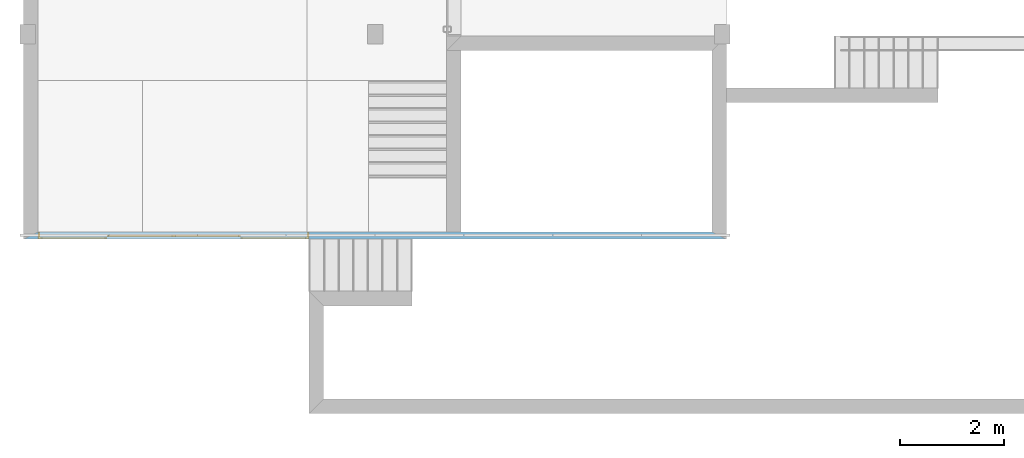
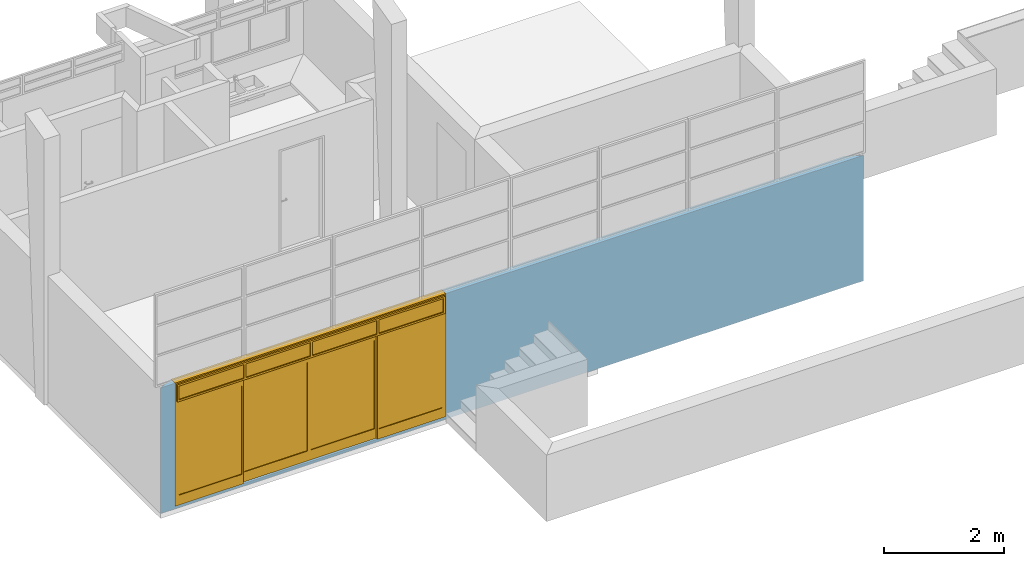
# One storey, part 10 of 16: 1 door, 9 openings, plus 1 element that does not belong to this part.
"""IFC2X3 building model written with IfcOpenShell, lengths in millimetres."""

from ifc_helpers import new_model, entity, si_unit, converted_unit, derived_unit, money_unit, direction, frame, origin_with_axes, origin_2d_with_axis, place, context, subcontext, project, spatial, polyline, rectangle, outline, extrude, open_shell, faceted_brep, surface_model, material, layer, layer_set, layer_usage, type_object, element, fill, save


model = new_model("IFC2X3")

# Units and contexts
model_context = context("Model", 3, precision=0.01, world=origin_with_axes(), true_north=direction((0.293984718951, 0.955810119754)))
body_context = subcontext(model_context, "Body", "Model", "MODEL_VIEW")
ifc_project = project(units=[si_unit("LENGTHUNIT", "METRE", prefix="MILLI"), si_unit("AREAUNIT", "SQUARE_METRE"), si_unit("VOLUMEUNIT", "CUBIC_METRE"), converted_unit("PLANEANGLEUNIT", "DEGREE", entity("IfcPlaneAngleMeasure", 0.0174532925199), si_unit("PLANEANGLEUNIT", "RADIAN"), dimensions=[0, 0, 0, 0, 0, 0, 0]), si_unit("SOLIDANGLEUNIT", "STERADIAN"), money_unit("USD"), converted_unit("TIMEUNIT", "Year", entity("IfcTimeMeasure", 31556926.0), si_unit("TIMEUNIT", "SECOND"), dimensions=[0, 0, 1, 0, 0, 0, 0]), si_unit("MASSUNIT", "GRAM", prefix="KILO"), si_unit("THERMODYNAMICTEMPERATUREUNIT", "DEGREE_CELSIUS"), si_unit("LUMINOUSINTENSITYUNIT", "LUMEN"), si_unit("ENERGYUNIT", "JOULE", prefix="MEGA"), derived_unit("THERMALCONDUCTANCEUNIT", [(si_unit("POWERUNIT", "WATT"), 1), (si_unit("LENGTHUNIT", "METRE"), -1), (si_unit("THERMODYNAMICTEMPERATUREUNIT", "KELVIN"), -1)]), derived_unit("SPECIFICHEATCAPACITYUNIT", [(si_unit("ENERGYUNIT", "JOULE"), 1), (si_unit("MASSUNIT", "GRAM", prefix="KILO"), -1), (si_unit("THERMODYNAMICTEMPERATUREUNIT", "KELVIN"), -1)]), derived_unit("MASSDENSITYUNIT", [(si_unit("MASSUNIT", "GRAM", prefix="KILO"), 1), (si_unit("VOLUMEUNIT", "CUBIC_METRE"), -1)])], contexts=[model_context])

# Site, building, storey
site_placement = place(None, origin_with_axes())
site = spatial("IfcSite", under=ifc_project, at=site_placement, Name="Local", CompositionType="ELEMENT")
building_placement = place(site_placement, origin_with_axes())
building = spatial("IfcBuilding", under=site, at=building_placement, Name="Construção", CompositionType="ELEMENT")
storey_placement = place(building_placement, origin_with_axes())
storey = spatial("IfcBuildingStorey", under=building, at=storey_placement, Name="Pavimento Térreo", CompositionType="ELEMENT", Elevation=0.0)

# Wall, openings, door
ifc_material_1 = material(Name="Reboco (1)")
ifc_layer_1 = layer(ifc_material_1, 20.0, ventilated="UNKNOWN")
ifc_material_2 = material(Name="Tijolo - Estrutural (1)")
ifc_layer_2 = layer(ifc_material_2, 100.0, ventilated="UNKNOWN")
ifc_layer_3 = layer(ifc_material_1, 20.0, ventilated="UNKNOWN")
ifc_layer_set = layer_set([ifc_layer_1, ifc_layer_2, ifc_layer_3], Name="Alvenaria Tijolo Maciço com Revestimento 14cm")
ifc_layer_usage = layer_usage(ifc_layer_set, "AXIS2", "NEGATIVE", 0.0)
wall_type = type_object("IfcWallType", Name="Alvenaria Tijolo Maciço com Revestimento 14cm 140", PredefinedType="NOTDEFINED")
wall_placement = place(storey_placement, frame((20579.6450727, 3350.63219788, 50.0), z_axis=(0.0, 0.0, 1.0), x_axis=(-1.0, 0.0, 0.0)))
wall = element("IfcWallStandardCase", 1, at=wall_placement, inside=storey, type_object=wall_type, material=ifc_layer_usage, Name="Parede", context=body_context, shape_type="SweptSolid", body=[
    extrude(outline(polyline([(280.0, -140.0), (13220.0, -140.0), (13500.0, 0.0), (0.0, 0.0), (280.0, -140.0)])), origin_with_axes(), (0.0, 0.0, 1.0), 2550.0),
])
opening_1_placement = place(wall_placement, frame((780.000000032, 0.0, 2550.0), z_axis=(0.0, 0.0, 1.0), x_axis=(1.0, 0.0, 0.0)))
element("IfcOpeningElement", 2, at=opening_1_placement, cuts=wall, Name="J02", context=body_context, shape_type="SweptSolid", body=[
    extrude(rectangle(XDim=1700.0, YDim=1880.0, at=origin_2d_with_axis()), frame((0.0, -50.0, 940.0), z_axis=(0.0, -1.0, 0.0), x_axis=(1.0, 0.0, 0.0)), (0.0, 0.0, 1.0), 230.0),
    extrude(rectangle(XDim=1700.0, YDim=1880.0, at=origin_2d_with_axis()), frame((0.0, -50.0, 940.0), z_axis=(0.0, 1.0, 0.0), x_axis=(1.0, 0.0, 0.0)), (0.0, 0.0, 1.0), 190.0),
])
opening_2_placement = place(wall_placement, frame((2485.71428575, 0.0, 2550.0), z_axis=(0.0, 0.0, 1.0), x_axis=(1.0, 0.0, 0.0)))
element("IfcOpeningElement", 3, at=opening_2_placement, cuts=wall, Name="J02", context=body_context, shape_type="SweptSolid", body=[
    extrude(rectangle(XDim=1700.0, YDim=1880.0, at=origin_2d_with_axis()), frame((0.0, -50.0, 940.0), z_axis=(0.0, -1.0, 0.0), x_axis=(1.0, 0.0, 0.0)), (0.0, 0.0, 1.0), 230.0),
    extrude(rectangle(XDim=1700.0, YDim=1880.0, at=origin_2d_with_axis()), frame((0.0, -50.0, 940.0), z_axis=(0.0, 1.0, 0.0), x_axis=(1.0, 0.0, 0.0)), (0.0, 0.0, 1.0), 190.0),
])
opening_3_placement = place(wall_placement, frame((4191.42857146, 0.0, 2550.0), z_axis=(0.0, 0.0, 1.0), x_axis=(1.0, 0.0, 0.0)))
element("IfcOpeningElement", 4, at=opening_3_placement, cuts=wall, Name="J02", context=body_context, shape_type="SweptSolid", body=[
    extrude(rectangle(XDim=1700.0, YDim=1880.0, at=origin_2d_with_axis()), frame((0.0, -50.0, 940.0), z_axis=(0.0, -1.0, 0.0), x_axis=(1.0, 0.0, 0.0)), (0.0, 0.0, 1.0), 230.0),
    extrude(rectangle(XDim=1700.0, YDim=1880.0, at=origin_2d_with_axis()), frame((0.0, -50.0, 940.0), z_axis=(0.0, 1.0, 0.0), x_axis=(1.0, 0.0, 0.0)), (0.0, 0.0, 1.0), 190.0),
])
opening_4_placement = place(wall_placement, frame((5897.14285717, 0.0, 2550.0), z_axis=(0.0, 0.0, 1.0), x_axis=(1.0, 0.0, 0.0)))
element("IfcOpeningElement", 5, at=opening_4_placement, cuts=wall, Name="J02", context=body_context, shape_type="SweptSolid", body=[
    extrude(rectangle(XDim=1700.0, YDim=1880.0, at=origin_2d_with_axis()), frame((0.0, -50.0, 940.0), z_axis=(0.0, -1.0, 0.0), x_axis=(1.0, 0.0, 0.0)), (0.0, 0.0, 1.0), 230.0),
    extrude(rectangle(XDim=1700.0, YDim=1880.0, at=origin_2d_with_axis()), frame((0.0, -50.0, 940.0), z_axis=(0.0, 1.0, 0.0), x_axis=(1.0, 0.0, 0.0)), (0.0, 0.0, 1.0), 190.0),
])
opening_5_placement = place(wall_placement, frame((7602.85714289, 0.0, 2550.0), z_axis=(0.0, 0.0, 1.0), x_axis=(1.0, 0.0, 0.0)))
element("IfcOpeningElement", 6, at=opening_5_placement, cuts=wall, Name="J02", context=body_context, shape_type="SweptSolid", body=[
    extrude(rectangle(XDim=1700.0, YDim=1880.0, at=origin_2d_with_axis()), frame((0.0, -50.0, 940.0), z_axis=(0.0, -1.0, 0.0), x_axis=(1.0, 0.0, 0.0)), (0.0, 0.0, 1.0), 230.0),
    extrude(rectangle(XDim=1700.0, YDim=1880.0, at=origin_2d_with_axis()), frame((0.0, -50.0, 940.0), z_axis=(0.0, 1.0, 0.0), x_axis=(1.0, 0.0, 0.0)), (0.0, 0.0, 1.0), 190.0),
])
opening_6_placement = place(wall_placement, frame((9308.5714286, 0.0, 2550.0), z_axis=(0.0, 0.0, 1.0), x_axis=(1.0, 0.0, 0.0)))
element("IfcOpeningElement", 7, at=opening_6_placement, cuts=wall, Name="J02", context=body_context, shape_type="SweptSolid", body=[
    extrude(rectangle(XDim=1700.0, YDim=1880.0, at=origin_2d_with_axis()), frame((0.0, -50.0, 940.0), z_axis=(0.0, -1.0, 0.0), x_axis=(1.0, 0.0, 0.0)), (0.0, 0.0, 1.0), 230.0),
    extrude(rectangle(XDim=1700.0, YDim=1880.0, at=origin_2d_with_axis()), frame((0.0, -50.0, 940.0), z_axis=(0.0, 1.0, 0.0), x_axis=(1.0, 0.0, 0.0)), (0.0, 0.0, 1.0), 190.0),
])
opening_7_placement = place(wall_placement, frame((11014.2857143, 0.0, 2550.0), z_axis=(0.0, 0.0, 1.0), x_axis=(1.0, 0.0, 0.0)))
element("IfcOpeningElement", 8, at=opening_7_placement, cuts=wall, Name="J02", context=body_context, shape_type="SweptSolid", body=[
    extrude(rectangle(XDim=1700.0, YDim=1880.0, at=origin_2d_with_axis()), frame((0.0, -50.0, 940.0), z_axis=(0.0, -1.0, 0.0), x_axis=(1.0, 0.0, 0.0)), (0.0, 0.0, 1.0), 230.0),
    extrude(rectangle(XDim=1700.0, YDim=1880.0, at=origin_2d_with_axis()), frame((0.0, -50.0, 940.0), z_axis=(0.0, 1.0, 0.0), x_axis=(1.0, 0.0, 0.0)), (0.0, 0.0, 1.0), 190.0),
])
opening_8_placement = place(wall_placement, frame((12720.0, 0.0, 2550.0), z_axis=(0.0, 0.0, 1.0), x_axis=(1.0, 0.0, 0.0)))
element("IfcOpeningElement", 9, at=opening_8_placement, cuts=wall, Name="J02", context=body_context, shape_type="SweptSolid", body=[
    extrude(rectangle(XDim=1700.0, YDim=1880.0, at=origin_2d_with_axis()), frame((0.0, -50.0, 940.0), z_axis=(0.0, -1.0, 0.0), x_axis=(1.0, 0.0, 0.0)), (0.0, 0.0, 1.0), 230.0),
    extrude(rectangle(XDim=1700.0, YDim=1880.0, at=origin_2d_with_axis()), frame((0.0, -50.0, 940.0), z_axis=(0.0, 1.0, 0.0), x_axis=(1.0, 0.0, 0.0)), (0.0, 0.0, 1.0), 190.0),
])
opening_9_placement = place(wall_placement, frame((10620.0, 0.0, 50.0), z_axis=(0.0, 0.0, 1.0), x_axis=(1.0, 0.0, 0.0)))
opening_9 = element("IfcOpeningElement", 10, at=opening_9_placement, cuts=wall, Name="P06", context=body_context, shape_type="SweptSolid", body=[
    extrude(rectangle(XDim=5200.0, YDim=2500.0, at=origin_2d_with_axis()), frame((0.0, -140.0, 1250.0), z_axis=(0.0, 1.0, 0.0), x_axis=(1.0, 0.0, 0.0)), (0.0, 0.0, 1.0), 420.0),
])
door_style = type_object("IfcDoorStyle", Name="Porta de Correr com Travessa 23", ConstructionType="NOTDEFINED", OperationType="USERDEFINED", ParameterTakesPrecedence=False, Sizeable=False)
door_placement = place(opening_9_placement, frame((-2600.0, 0.0, 0.0), z_axis=(0.0, 0.0, 1.0), x_axis=(1.0, 0.0, 0.0)))
door = element("IfcDoor", 11, at=door_placement, inside=storey, type_object=door_style, Name="P09", OverallHeight=2500.0, OverallWidth=5200.0, context=body_context, shape_type="SurfaceModel", body=[
    faceted_brep([(35.0, -18.0, 2135.0), (35.0, -18.0, 2465.0), (35.0, -140.0, 2465.0), (35.0, -140.0, 2135.0), (25.0, -18.0, 2465.0), (35.0, -18.0, 2125.0), (25.0, -18.0, 2125.0), (25.0, 0.0, 2465.0), (0.0, 0.0, 2465.0), (0.0, -140.0, 2465.0), (0.0, -140.0, 0.0), (35.0, -140.0, 0.0), (35.0, -140.0, 2100.0), (35.0, 0.0, 0.0), (35.0, 0.0, 2100.0), (35.0, 0.0, 2125.0), (25.0, 0.0, 2125.0), (0.0, 0.0, 0.0)], [[[0, 1, 2, 3]], [[4, 1, 0, 5, 6]], [[4, 7, 8, 9, 2, 1]], [[3, 2, 9, 10, 11, 12]], [[5, 0, 3, 12, 11, 13, 14, 15]], [[5, 15, 16, 6]], [[7, 4, 6, 16]], [[16, 15, 14, 13, 17, 8, 7]], [[17, 10, 9, 8]], [[13, 11, 10, 17]]]),
    faceted_brep([(5175.0, -18.0, 2465.0), (5165.0, -18.0, 2465.0), (5165.0, -140.0, 2465.0), (5200.0, -140.0, 2465.0), (5200.0, 0.0, 2465.0), (5175.0, 0.0, 2465.0), (5175.0, -18.0, 2125.0), (5165.0, -18.0, 2125.0), (5165.0, -18.0, 2135.0), (5165.0, -140.0, 2135.0), (5165.0, -140.0, 2100.0), (5165.0, -140.0, 0.0), (5200.0, -140.0, 0.0), (5200.0, 0.0, 0.0), (5175.0, 0.0, 2125.0), (5165.0, 0.0, 0.0), (5165.0, 0.0, 2100.0), (5165.0, 0.0, 2125.0)], [[[0, 1, 2, 3, 4, 5]], [[1, 0, 6, 7, 8]], [[1, 8, 9, 2]], [[9, 10, 11, 12, 3, 2]], [[4, 3, 12, 13]], [[14, 5, 4, 13, 15, 16, 17]], [[0, 5, 14, 6]], [[14, 17, 7, 6]], [[7, 17, 16, 15, 11, 10, 9, 8]], [[13, 12, 11, 15]]]),
    faceted_brep([(25.0, 0.0, 2475.0), (25.0, 0.0, 2465.0), (0.0, 0.0, 2465.0), (0.0, 0.0, 2500.0), (5200.0, 0.0, 2500.0), (5200.0, 0.0, 2465.0), (5175.0, 0.0, 2465.0), (5175.0, 0.0, 2475.0), (25.0, -18.0, 2475.0), (25.0, -18.0, 2465.0), (35.0, -18.0, 2465.0), (35.0, -140.0, 2465.0), (0.0, -140.0, 2465.0), (0.0, -140.0, 2500.0), (5200.0, -140.0, 2500.0), (5200.0, -140.0, 2465.0), (5175.0, -18.0, 2465.0), (5165.0, -140.0, 2465.0), (5165.0, -18.0, 2465.0), (5175.0, -18.0, 2475.0)], [[[0, 1, 2, 3, 4, 5, 6, 7]], [[1, 0, 8, 9]], [[9, 10, 11, 12, 2, 1]], [[2, 12, 13, 3]], [[3, 13, 14, 4]], [[4, 14, 15, 5]], [[16, 6, 5, 15, 17, 18]], [[7, 6, 16, 19]], [[0, 7, 19, 8]], [[16, 18, 10, 9, 8, 19]], [[10, 18, 17, 11]], [[17, 15, 14, 13, 12, 11]]]),
    faceted_brep([(5165.0, 0.0, 2125.0), (5165.0, -18.0, 2125.0), (5165.0, -18.0, 2135.0), (5165.0, -140.0, 2135.0), (5165.0, -140.0, 2100.0), (5165.0, 0.0, 2100.0), (35.0, 0.0, 2125.0), (35.0, -18.0, 2125.0), (35.0, -18.0, 2135.0), (35.0, -140.0, 2135.0), (35.0, -140.0, 2100.0), (35.0, 0.0, 2100.0)], [[[0, 1, 2, 3, 4, 5]], [[1, 0, 6, 7]], [[8, 2, 1, 7]], [[2, 8, 9, 3]], [[10, 4, 3, 9]], [[5, 4, 10, 11]], [[6, 0, 5, 11]], [[7, 6, 11, 10, 9, 8]]]),
    faceted_brep([(1317.5, 0.0, 200.0), (1317.5, -40.0, 200.0), (1282.5, -40.0, 200.0), (1282.5, 0.0, 200.0), (1317.5, 0.0, 2000.0), (1317.5, -40.0, 2000.0), (1282.5, -40.0, 2000.0), (1282.5, 0.0, 2000.0)], [[[0, 1, 2, 3]], [[4, 5, 1, 0]], [[1, 5, 6, 2]], [[3, 2, 6, 7]], [[0, 3, 7, 4]], [[7, 6, 5, 4]]]),
    faceted_brep([(35.0, 0.0, 200.0), (35.0, -40.0, 200.0), (35.0, -40.0, 2000.0), (35.0, 0.0, 2000.0), (70.0, 0.0, 200.0), (70.0, -40.0, 200.0), (70.0, -40.0, 2000.0), (70.0, 0.0, 2000.0)], [[[0, 1, 2, 3]], [[4, 5, 1, 0]], [[1, 5, 6, 2]], [[3, 2, 6, 7]], [[0, 3, 7, 4]], [[7, 6, 5, 4]]]),
    faceted_brep([(1317.5, 0.0, 0.0), (1317.5, -40.0, 0.0), (35.0, -40.0, 0.0), (35.0, 0.0, 0.0), (1317.5, 0.0, 200.0), (1317.5, -40.0, 200.0), (1282.5, -40.0, 200.0), (70.0, -40.0, 200.0), (35.0, -40.0, 200.0), (35.0, 0.0, 200.0), (70.0, 0.0, 200.0), (1282.5, 0.0, 200.0)], [[[0, 1, 2, 3]], [[4, 5, 1, 0]], [[1, 5, 6, 7, 8, 2]], [[3, 2, 8, 9]], [[0, 3, 9, 10, 11, 4]], [[11, 6, 5, 4]], [[10, 7, 6, 11]], [[9, 8, 7, 10]]]),
    faceted_brep([(1317.5, 0.0, 2100.0), (1317.5, -40.0, 2100.0), (1317.5, -40.0, 2000.0), (1317.5, 0.0, 2000.0), (35.0, 0.0, 2100.0), (35.0, -40.0, 2100.0), (35.0, -40.0, 2000.0), (70.0, -40.0, 2000.0), (1282.5, -40.0, 2000.0), (1282.5, 0.0, 2000.0), (70.0, 0.0, 2000.0), (35.0, 0.0, 2000.0)], [[[0, 1, 2, 3]], [[4, 5, 1, 0]], [[1, 5, 6, 7, 8, 2]], [[3, 2, 8, 9]], [[0, 3, 9, 10, 11, 4]], [[11, 6, 5, 4]], [[10, 7, 6, 11]], [[9, 8, 7, 10]]]),
    surface_model("IfcShellBasedSurfaceModel", [(1282.5, -14.0, 200.0), (70.0, -14.0, 200.0), (70.0, -14.0, 2000.0), (1282.5, -14.0, 2000.0)], [open_shell([[[0, 1, 2, 3]]])]),
    surface_model("IfcShellBasedSurfaceModel", [(1282.5, -26.0, 200.0), (1282.5, -26.0, 2000.0), (70.0, -26.0, 2000.0), (70.0, -26.0, 200.0)], [open_shell([[[0, 1, 2, 3]]])]),
    faceted_brep([(1317.5, -40.0, 200.0), (1352.5, -40.0, 200.0), (1352.5, -80.0, 200.0), (1317.5, -80.0, 200.0), (1317.5, -40.0, 2000.0), (1352.5, -40.0, 2000.0), (1352.5, -80.0, 2000.0), (1317.5, -80.0, 2000.0)], [[[0, 1, 2, 3]], [[0, 4, 5, 1]], [[1, 5, 6, 2]], [[3, 2, 6, 7]], [[4, 0, 3, 7]], [[5, 4, 7, 6]]]),
    faceted_brep([(2600.0, -40.0, 200.0), (2600.0, -40.0, 2000.0), (2600.0, -80.0, 2000.0), (2600.0, -80.0, 200.0), (2565.0, -40.0, 200.0), (2565.0, -40.0, 2000.0), (2565.0, -80.0, 2000.0), (2565.0, -80.0, 200.0)], [[[0, 1, 2, 3]], [[0, 4, 5, 1]], [[1, 5, 6, 2]], [[3, 2, 6, 7]], [[4, 0, 3, 7]], [[5, 4, 7, 6]]]),
    faceted_brep([(1317.5, -40.0, 0.0), (2600.0, -40.0, 0.0), (2600.0, -80.0, 0.0), (1317.5, -80.0, 0.0), (1317.5, -40.0, 200.0), (1352.5, -40.0, 200.0), (2565.0, -40.0, 200.0), (2600.0, -40.0, 200.0), (2600.0, -80.0, 200.0), (2565.0, -80.0, 200.0), (1352.5, -80.0, 200.0), (1317.5, -80.0, 200.0)], [[[0, 1, 2, 3]], [[0, 4, 5, 6, 7, 1]], [[1, 7, 8, 2]], [[3, 2, 8, 9, 10, 11]], [[4, 0, 3, 11]], [[5, 4, 11, 10]], [[6, 5, 10, 9]], [[7, 6, 9, 8]]]),
    faceted_brep([(1317.5, -40.0, 2100.0), (1317.5, -40.0, 2000.0), (1317.5, -80.0, 2000.0), (1317.5, -80.0, 2100.0), (2600.0, -40.0, 2100.0), (2600.0, -40.0, 2000.0), (2565.0, -40.0, 2000.0), (1352.5, -40.0, 2000.0), (1352.5, -80.0, 2000.0), (2565.0, -80.0, 2000.0), (2600.0, -80.0, 2000.0), (2600.0, -80.0, 2100.0)], [[[0, 1, 2, 3]], [[0, 4, 5, 6, 7, 1]], [[1, 7, 8, 2]], [[3, 2, 8, 9, 10, 11]], [[4, 0, 3, 11]], [[5, 4, 11, 10]], [[6, 5, 10, 9]], [[7, 6, 9, 8]]]),
    surface_model("IfcShellBasedSurfaceModel", [(1352.5, -54.0, 200.0), (1352.5, -54.0, 2000.0), (2565.0, -54.0, 2000.0), (2565.0, -54.0, 200.0)], [open_shell([[[0, 1, 2, 3]]])]),
    surface_model("IfcShellBasedSurfaceModel", [(1352.5, -66.0, 200.0), (2565.0, -66.0, 200.0), (2565.0, -66.0, 2000.0), (1352.5, -66.0, 2000.0)], [open_shell([[[0, 1, 2, 3]]])]),
    faceted_brep([(3882.5, 0.0, 200.0), (3917.5, 0.0, 200.0), (3917.5, -40.0, 200.0), (3882.5, -40.0, 200.0), (3882.5, 0.0, 2000.0), (3917.5, 0.0, 2000.0), (3917.5, -40.0, 2000.0), (3882.5, -40.0, 2000.0)], [[[0, 1, 2, 3]], [[0, 4, 5, 1]], [[1, 5, 6, 2]], [[3, 2, 6, 7]], [[4, 0, 3, 7]], [[5, 4, 7, 6]]]),
    faceted_brep([(5165.0, 0.0, 200.0), (5165.0, 0.0, 2000.0), (5165.0, -40.0, 2000.0), (5165.0, -40.0, 200.0), (5130.0, 0.0, 200.0), (5130.0, 0.0, 2000.0), (5130.0, -40.0, 2000.0), (5130.0, -40.0, 200.0)], [[[0, 1, 2, 3]], [[0, 4, 5, 1]], [[1, 5, 6, 2]], [[3, 2, 6, 7]], [[4, 0, 3, 7]], [[5, 4, 7, 6]]]),
    faceted_brep([(3882.5, 0.0, 0.0), (5165.0, 0.0, 0.0), (5165.0, -40.0, 0.0), (3882.5, -40.0, 0.0), (3882.5, 0.0, 200.0), (3917.5, 0.0, 200.0), (5130.0, 0.0, 200.0), (5165.0, 0.0, 200.0), (5165.0, -40.0, 200.0), (5130.0, -40.0, 200.0), (3917.5, -40.0, 200.0), (3882.5, -40.0, 200.0)], [[[0, 1, 2, 3]], [[0, 4, 5, 6, 7, 1]], [[1, 7, 8, 2]], [[3, 2, 8, 9, 10, 11]], [[4, 0, 3, 11]], [[5, 4, 11, 10]], [[6, 5, 10, 9]], [[7, 6, 9, 8]]]),
    faceted_brep([(3882.5, 0.0, 2100.0), (3882.5, 0.0, 2000.0), (3882.5, -40.0, 2000.0), (3882.5, -40.0, 2100.0), (5165.0, 0.0, 2100.0), (5165.0, 0.0, 2000.0), (5130.0, 0.0, 2000.0), (3917.5, 0.0, 2000.0), (3917.5, -40.0, 2000.0), (5130.0, -40.0, 2000.0), (5165.0, -40.0, 2000.0), (5165.0, -40.0, 2100.0)], [[[0, 1, 2, 3]], [[0, 4, 5, 6, 7, 1]], [[1, 7, 8, 2]], [[3, 2, 8, 9, 10, 11]], [[4, 0, 3, 11]], [[5, 4, 11, 10]], [[6, 5, 10, 9]], [[7, 6, 9, 8]]]),
    surface_model("IfcShellBasedSurfaceModel", [(3917.5, -14.0, 200.0), (3917.5, -14.0, 2000.0), (5130.0, -14.0, 2000.0), (5130.0, -14.0, 200.0)], [open_shell([[[0, 1, 2, 3]]])]),
    surface_model("IfcShellBasedSurfaceModel", [(3917.5, -26.0, 200.0), (5130.0, -26.0, 200.0), (5130.0, -26.0, 2000.0), (3917.5, -26.0, 2000.0)], [open_shell([[[0, 1, 2, 3]]])]),
    faceted_brep([(3882.5, -40.0, 200.0), (3882.5, -80.0, 200.0), (3847.5, -80.0, 200.0), (3847.5, -40.0, 200.0), (3882.5, -40.0, 2000.0), (3882.5, -80.0, 2000.0), (3847.5, -80.0, 2000.0), (3847.5, -40.0, 2000.0)], [[[0, 1, 2, 3]], [[4, 5, 1, 0]], [[1, 5, 6, 2]], [[3, 2, 6, 7]], [[0, 3, 7, 4]], [[7, 6, 5, 4]]]),
    faceted_brep([(2600.0, -40.0, 200.0), (2600.0, -80.0, 200.0), (2600.0, -80.0, 2000.0), (2600.0, -40.0, 2000.0), (2635.0, -40.0, 200.0), (2635.0, -80.0, 200.0), (2635.0, -80.0, 2000.0), (2635.0, -40.0, 2000.0)], [[[0, 1, 2, 3]], [[4, 5, 1, 0]], [[1, 5, 6, 2]], [[3, 2, 6, 7]], [[0, 3, 7, 4]], [[7, 6, 5, 4]]]),
    faceted_brep([(3882.5, -40.0, 0.0), (3882.5, -80.0, 0.0), (2600.0, -80.0, 0.0), (2600.0, -40.0, 0.0), (3882.5, -40.0, 200.0), (3882.5, -80.0, 200.0), (3847.5, -80.0, 200.0), (2635.0, -80.0, 200.0), (2600.0, -80.0, 200.0), (2600.0, -40.0, 200.0), (2635.0, -40.0, 200.0), (3847.5, -40.0, 200.0)], [[[0, 1, 2, 3]], [[4, 5, 1, 0]], [[1, 5, 6, 7, 8, 2]], [[3, 2, 8, 9]], [[0, 3, 9, 10, 11, 4]], [[11, 6, 5, 4]], [[10, 7, 6, 11]], [[9, 8, 7, 10]]]),
    faceted_brep([(3882.5, -40.0, 2100.0), (3882.5, -80.0, 2100.0), (3882.5, -80.0, 2000.0), (3882.5, -40.0, 2000.0), (2600.0, -40.0, 2100.0), (2600.0, -80.0, 2100.0), (2600.0, -80.0, 2000.0), (2635.0, -80.0, 2000.0), (3847.5, -80.0, 2000.0), (3847.5, -40.0, 2000.0), (2635.0, -40.0, 2000.0), (2600.0, -40.0, 2000.0)], [[[0, 1, 2, 3]], [[4, 5, 1, 0]], [[1, 5, 6, 7, 8, 2]], [[3, 2, 8, 9]], [[0, 3, 9, 10, 11, 4]], [[11, 6, 5, 4]], [[10, 7, 6, 11]], [[9, 8, 7, 10]]]),
    surface_model("IfcShellBasedSurfaceModel", [(3847.5, -54.0, 200.0), (2635.0, -54.0, 200.0), (2635.0, -54.0, 2000.0), (3847.5, -54.0, 2000.0)], [open_shell([[[0, 1, 2, 3]]])]),
    surface_model("IfcShellBasedSurfaceModel", [(3847.5, -66.0, 200.0), (3847.5, -66.0, 2000.0), (2635.0, -66.0, 2000.0), (2635.0, -66.0, 200.0)], [open_shell([[[0, 1, 2, 3]]])]),
    faceted_brep([(60.0, -18.0, 2440.0), (60.0, 32.0, 2440.0), (25.0, 32.0, 2440.0), (25.0, -18.0, 2440.0), (60.0, -18.0, 2160.0), (60.0, 32.0, 2160.0), (25.0, 32.0, 2160.0), (25.0, -18.0, 2160.0)], [[[0, 1, 2, 3]], [[4, 5, 1, 0]], [[1, 5, 6, 2]], [[3, 2, 6, 7]], [[0, 3, 7, 4]], [[7, 6, 5, 4]]]),
    faceted_brep([(5140.0, -18.0, 2160.0), (5140.0, 32.0, 2160.0), (5175.0, 32.0, 2160.0), (5175.0, -18.0, 2160.0), (5140.0, -18.0, 2440.0), (5140.0, 32.0, 2440.0), (5175.0, 32.0, 2440.0), (5175.0, -18.0, 2440.0)], [[[0, 1, 2, 3]], [[4, 5, 1, 0]], [[1, 5, 6, 2]], [[3, 2, 6, 7]], [[0, 3, 7, 4]], [[7, 6, 5, 4]]]),
    faceted_brep([(5175.0, -18.0, 2125.0), (5175.0, 32.0, 2125.0), (5175.0, 32.0, 2160.0), (5175.0, -18.0, 2160.0), (25.0, -18.0, 2125.0), (25.0, 32.0, 2125.0), (25.0, 32.0, 2160.0), (60.0, 32.0, 2160.0), (5140.0, 32.0, 2160.0), (5140.0, -18.0, 2160.0), (60.0, -18.0, 2160.0), (25.0, -18.0, 2160.0)], [[[0, 1, 2, 3]], [[4, 5, 1, 0]], [[1, 5, 6, 7, 8, 2]], [[3, 2, 8, 9]], [[0, 3, 9, 10, 11, 4]], [[11, 6, 5, 4]], [[10, 7, 6, 11]], [[9, 8, 7, 10]]]),
    faceted_brep([(25.0, -18.0, 2475.0), (25.0, 32.0, 2475.0), (25.0, 32.0, 2440.0), (25.0, -18.0, 2440.0), (5175.0, -18.0, 2475.0), (5175.0, 32.0, 2475.0), (5175.0, 32.0, 2440.0), (5140.0, 32.0, 2440.0), (60.0, 32.0, 2440.0), (60.0, -18.0, 2440.0), (5140.0, -18.0, 2440.0), (5175.0, -18.0, 2440.0)], [[[0, 1, 2, 3]], [[4, 5, 1, 0]], [[1, 5, 6, 7, 8, 2]], [[3, 2, 8, 9]], [[0, 3, 9, 10, 11, 4]], [[11, 6, 5, 4]], [[10, 7, 6, 11]], [[9, 8, 7, 10]]]),
    surface_model("IfcShellBasedSurfaceModel", [(1303.75, 0.999999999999, 2160.0), (1303.75, 0.999999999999, 2440.0), (60.0, 0.999999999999, 2440.0), (60.0, 0.999999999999, 2160.0)], [open_shell([[[0, 1, 2, 3]]])]),
    surface_model("IfcShellBasedSurfaceModel", [(1303.75, 13.0, 2160.0), (60.0, 13.0, 2160.0), (60.0, 13.0, 2440.0), (1303.75, 13.0, 2440.0)], [open_shell([[[0, 1, 2, 3]]])]),
    surface_model("IfcShellBasedSurfaceModel", [(2582.5, 0.999999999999, 2160.0), (2582.5, 0.999999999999, 2440.0), (1338.75, 0.999999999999, 2440.0), (1338.75, 0.999999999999, 2160.0)], [open_shell([[[0, 1, 2, 3]]])]),
    surface_model("IfcShellBasedSurfaceModel", [(2582.5, 13.0, 2160.0), (1338.75, 13.0, 2160.0), (1338.75, 13.0, 2440.0), (2582.5, 13.0, 2440.0)], [open_shell([[[0, 1, 2, 3]]])]),
    surface_model("IfcShellBasedSurfaceModel", [(3861.25, 0.999999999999, 2160.0), (3861.25, 0.999999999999, 2440.0), (2617.5, 0.999999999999, 2440.0), (2617.5, 0.999999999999, 2160.0)], [open_shell([[[0, 1, 2, 3]]])]),
    surface_model("IfcShellBasedSurfaceModel", [(3861.25, 13.0, 2160.0), (2617.5, 13.0, 2160.0), (2617.5, 13.0, 2440.0), (3861.25, 13.0, 2440.0)], [open_shell([[[0, 1, 2, 3]]])]),
    surface_model("IfcShellBasedSurfaceModel", [(5140.0, 0.999999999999, 2160.0), (5140.0, 0.999999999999, 2440.0), (3896.25, 0.999999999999, 2440.0), (3896.25, 0.999999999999, 2160.0)], [open_shell([[[0, 1, 2, 3]]])]),
    surface_model("IfcShellBasedSurfaceModel", [(5140.0, 13.0, 2160.0), (3896.25, 13.0, 2160.0), (3896.25, 13.0, 2440.0), (5140.0, 13.0, 2440.0)], [open_shell([[[0, 1, 2, 3]]])]),
    faceted_brep([(1303.75, -18.0, 2160.0), (1303.75, 32.0, 2160.0), (1338.75, 32.0, 2160.0), (1338.75, -18.0, 2160.0), (1303.75, -18.0, 2440.0), (1303.75, 32.0, 2440.0), (1338.75, 32.0, 2440.0), (1338.75, -18.0, 2440.0)], [[[0, 1, 2, 3]], [[4, 5, 1, 0]], [[1, 5, 6, 2]], [[3, 2, 6, 7]], [[0, 3, 7, 4]], [[7, 6, 5, 4]]]),
    faceted_brep([(2582.5, -18.0, 2160.0), (2582.5, 32.0, 2160.0), (2617.5, 32.0, 2160.0), (2617.5, -18.0, 2160.0), (2582.5, -18.0, 2440.0), (2582.5, 32.0, 2440.0), (2617.5, 32.0, 2440.0), (2617.5, -18.0, 2440.0)], [[[0, 1, 2, 3]], [[4, 5, 1, 0]], [[1, 5, 6, 2]], [[3, 2, 6, 7]], [[0, 3, 7, 4]], [[7, 6, 5, 4]]]),
    faceted_brep([(3861.25, -18.0, 2160.0), (3861.25, 32.0, 2160.0), (3896.25, 32.0, 2160.0), (3896.25, -18.0, 2160.0), (3861.25, -18.0, 2440.0), (3861.25, 32.0, 2440.0), (3896.25, 32.0, 2440.0), (3896.25, -18.0, 2440.0)], [[[0, 1, 2, 3]], [[4, 5, 1, 0]], [[1, 5, 6, 2]], [[3, 2, 6, 7]], [[0, 3, 7, 4]], [[7, 6, 5, 4]]]),
])
fill(opening_9, door)

save(model, "model.ifc")
